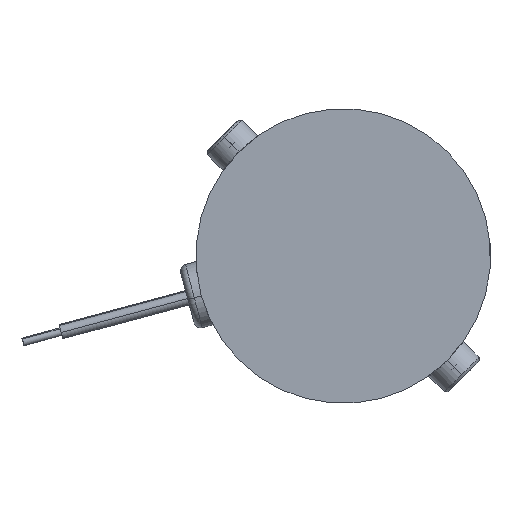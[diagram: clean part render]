
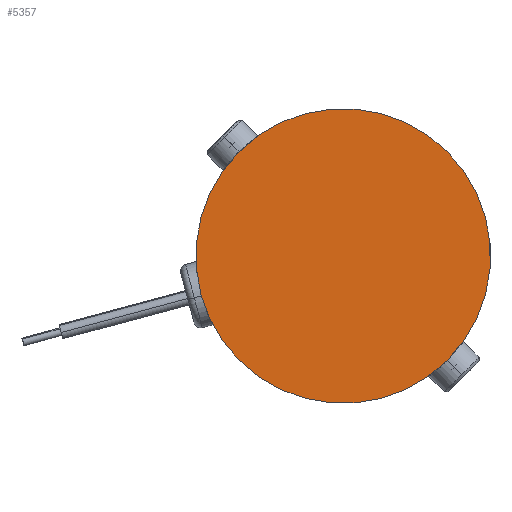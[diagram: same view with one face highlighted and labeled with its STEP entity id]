
A CAD part, left-side view. The second image highlights one B-rep face of the part: STEP entity #5357.
In plain terms, the highlighted planar face has unit normal (-1, 0, 0).
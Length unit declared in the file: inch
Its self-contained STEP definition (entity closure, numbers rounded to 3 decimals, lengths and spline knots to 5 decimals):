
#127 = AXIS2_PLACEMENT_3D ( 'NONE', #7419, #7464, #9120 ) ;
#274 = PLANE ( 'NONE',  #9137 ) ;
#758 = VERTEX_POINT ( 'NONE', #5360 ) ;
#967 = CARTESIAN_POINT ( 'NONE',  ( -5.40487, 3.72848, -3.73857 ) ) ;
#1022 = DIRECTION ( 'NONE',  ( 1., 0., 0. ) ) ;
#1116 = DIRECTION ( 'NONE',  ( 1., 0., 0. ) ) ;
#1884 = CIRCLE ( 'NONE', #127, 1.125 ) ;
#2341 = ORIENTED_EDGE ( 'NONE', *, *, #3741, .F. ) ;
#3250 = FACE_OUTER_BOUND ( 'NONE', #6052, .T. ) ;
#3404 = CARTESIAN_POINT ( 'NONE',  ( -5.40487, 4.52397, -2.94308 ) ) ;
#3741 = EDGE_CURVE ( 'NONE', #758, #5158, #3773, .T. ) ;
#3773 = CIRCLE ( 'NONE', #6828, 1.125 ) ;
#5158 = VERTEX_POINT ( 'NONE', #3404 ) ;
#5357 = ADVANCED_FACE ( 'NONE', ( #3250 ), #274, .F. ) ;
#5360 = CARTESIAN_POINT ( 'NONE',  ( -5.40487, 2.93298, -4.53407 ) ) ;
#5572 = EDGE_CURVE ( 'NONE', #5158, #758, #1884, .T. ) ;
#6052 = EDGE_LOOP ( 'NONE', ( #7954, #2341 ) ) ;
#6131 = DIRECTION ( 'NONE',  ( 0., -0.707, -0.707 ) ) ;
#6828 = AXIS2_PLACEMENT_3D ( 'NONE', #967, #1116, #7049 ) ;
#7049 = DIRECTION ( 'NONE',  ( 0., -0.707, -0.707 ) ) ;
#7419 = CARTESIAN_POINT ( 'NONE',  ( -5.40487, 3.72848, -3.73857 ) ) ;
#7464 = DIRECTION ( 'NONE',  ( 1., 0., 0. ) ) ;
#7564 = CARTESIAN_POINT ( 'NONE',  ( -5.40487, 3.72848, -3.73857 ) ) ;
#7954 = ORIENTED_EDGE ( 'NONE', *, *, #5572, .F. ) ;
#9120 = DIRECTION ( 'NONE',  ( 0., -0.707, -0.707 ) ) ;
#9137 = AXIS2_PLACEMENT_3D ( 'NONE', #7564, #1022, #6131 ) ;
